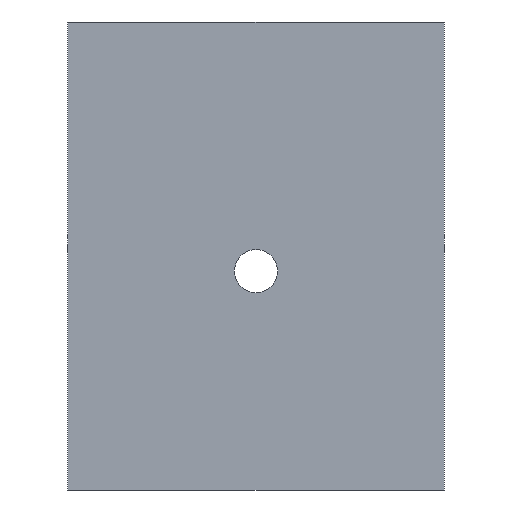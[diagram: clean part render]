
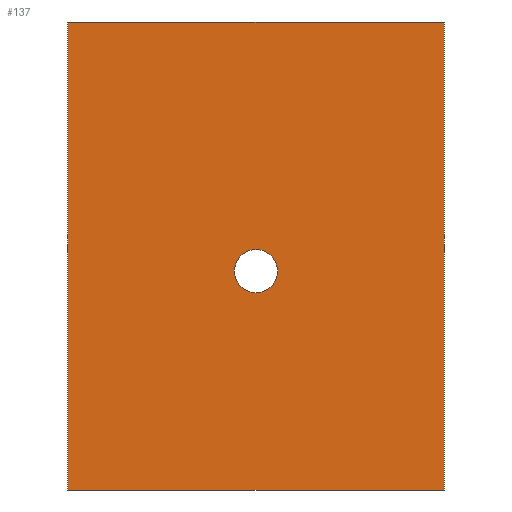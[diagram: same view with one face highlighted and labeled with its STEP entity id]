
A CAD part, front view. The second image highlights one B-rep face of the part: STEP entity #137.
In plain terms, the highlighted planar face has unit normal (0, -1, 0).
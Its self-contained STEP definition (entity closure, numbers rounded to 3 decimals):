
#21 = EDGE_CURVE('',#22,#24,#26,.T.);
#22 = VERTEX_POINT('',#23);
#23 = CARTESIAN_POINT('',(-62.,-3.,-77.));
#24 = VERTEX_POINT('',#25);
#25 = CARTESIAN_POINT('',(-62.,-3.,77.));
#26 = SURFACE_CURVE('',#27,(#31,#43),.PCURVE_S1.);
#27 = LINE('',#28,#29);
#28 = CARTESIAN_POINT('',(-62.,-3.,-77.));
#29 = VECTOR('',#30,1.);
#30 = DIRECTION('',(0.,0.,1.));
#31 = PCURVE('',#32,#37);
#32 = PLANE('',#33);
#33 = AXIS2_PLACEMENT_3D('',#34,#35,#36);
#34 = CARTESIAN_POINT('',(-62.,-3.,-77.));
#35 = DIRECTION('',(1.,0.,0.));
#36 = DIRECTION('',(0.,0.,1.));
#37 = DEFINITIONAL_REPRESENTATION('',(#38),#42);
#38 = LINE('',#39,#40);
#39 = CARTESIAN_POINT('',(0.,0.));
#40 = VECTOR('',#41,1.);
#41 = DIRECTION('',(1.,0.));
#42 = ( GEOMETRIC_REPRESENTATION_CONTEXT(2) 
PARAMETRIC_REPRESENTATION_CONTEXT() REPRESENTATION_CONTEXT('2D SPACE',''
  ) );
#43 = PCURVE('',#44,#49);
#44 = PLANE('',#45);
#45 = AXIS2_PLACEMENT_3D('',#46,#47,#48);
#46 = CARTESIAN_POINT('',(-62.,-3.,-77.));
#47 = DIRECTION('',(0.,1.,0.));
#48 = DIRECTION('',(0.,0.,1.));
#49 = DEFINITIONAL_REPRESENTATION('',(#50),#54);
#50 = LINE('',#51,#52);
#51 = CARTESIAN_POINT('',(0.,0.));
#52 = VECTOR('',#53,1.);
#53 = DIRECTION('',(1.,0.));
#54 = ( GEOMETRIC_REPRESENTATION_CONTEXT(2) 
PARAMETRIC_REPRESENTATION_CONTEXT() REPRESENTATION_CONTEXT('2D SPACE',''
  ) );
#72 = PLANE('',#73);
#73 = AXIS2_PLACEMENT_3D('',#74,#75,#76);
#74 = CARTESIAN_POINT('',(-62.,-3.,-77.));
#75 = DIRECTION('',(0.,0.,1.));
#76 = DIRECTION('',(1.,0.,0.));
#126 = PLANE('',#127);
#127 = AXIS2_PLACEMENT_3D('',#128,#129,#130);
#128 = CARTESIAN_POINT('',(-62.,-3.,77.));
#129 = DIRECTION('',(0.,0.,1.));
#130 = DIRECTION('',(1.,0.,0.));
#137 = ADVANCED_FACE('',(#138,#213),#44,.F.);
#138 = FACE_BOUND('',#139,.F.);
#139 = EDGE_LOOP('',(#140,#163,#164,#187));
#140 = ORIENTED_EDGE('',*,*,#141,.F.);
#141 = EDGE_CURVE('',#22,#142,#144,.T.);
#142 = VERTEX_POINT('',#143);
#143 = CARTESIAN_POINT('',(62.,-3.,-77.));
#144 = SURFACE_CURVE('',#145,(#149,#156),.PCURVE_S1.);
#145 = LINE('',#146,#147);
#146 = CARTESIAN_POINT('',(-62.,-3.,-77.));
#147 = VECTOR('',#148,1.);
#148 = DIRECTION('',(1.,0.,0.));
#149 = PCURVE('',#44,#150);
#150 = DEFINITIONAL_REPRESENTATION('',(#151),#155);
#151 = LINE('',#152,#153);
#152 = CARTESIAN_POINT('',(0.,0.));
#153 = VECTOR('',#154,1.);
#154 = DIRECTION('',(0.,1.));
#155 = ( GEOMETRIC_REPRESENTATION_CONTEXT(2) 
PARAMETRIC_REPRESENTATION_CONTEXT() REPRESENTATION_CONTEXT('2D SPACE',''
  ) );
#156 = PCURVE('',#72,#157);
#157 = DEFINITIONAL_REPRESENTATION('',(#158),#162);
#158 = LINE('',#159,#160);
#159 = CARTESIAN_POINT('',(0.,0.));
#160 = VECTOR('',#161,1.);
#161 = DIRECTION('',(1.,0.));
#162 = ( GEOMETRIC_REPRESENTATION_CONTEXT(2) 
PARAMETRIC_REPRESENTATION_CONTEXT() REPRESENTATION_CONTEXT('2D SPACE',''
  ) );
#163 = ORIENTED_EDGE('',*,*,#21,.T.);
#164 = ORIENTED_EDGE('',*,*,#165,.T.);
#165 = EDGE_CURVE('',#24,#166,#168,.T.);
#166 = VERTEX_POINT('',#167);
#167 = CARTESIAN_POINT('',(62.,-3.,77.));
#168 = SURFACE_CURVE('',#169,(#173,#180),.PCURVE_S1.);
#169 = LINE('',#170,#171);
#170 = CARTESIAN_POINT('',(-62.,-3.,77.));
#171 = VECTOR('',#172,1.);
#172 = DIRECTION('',(1.,0.,0.));
#173 = PCURVE('',#44,#174);
#174 = DEFINITIONAL_REPRESENTATION('',(#175),#179);
#175 = LINE('',#176,#177);
#176 = CARTESIAN_POINT('',(154.,0.));
#177 = VECTOR('',#178,1.);
#178 = DIRECTION('',(0.,1.));
#179 = ( GEOMETRIC_REPRESENTATION_CONTEXT(2) 
PARAMETRIC_REPRESENTATION_CONTEXT() REPRESENTATION_CONTEXT('2D SPACE',''
  ) );
#180 = PCURVE('',#126,#181);
#181 = DEFINITIONAL_REPRESENTATION('',(#182),#186);
#182 = LINE('',#183,#184);
#183 = CARTESIAN_POINT('',(0.,0.));
#184 = VECTOR('',#185,1.);
#185 = DIRECTION('',(1.,0.));
#186 = ( GEOMETRIC_REPRESENTATION_CONTEXT(2) 
PARAMETRIC_REPRESENTATION_CONTEXT() REPRESENTATION_CONTEXT('2D SPACE',''
  ) );
#187 = ORIENTED_EDGE('',*,*,#188,.F.);
#188 = EDGE_CURVE('',#142,#166,#189,.T.);
#189 = SURFACE_CURVE('',#190,(#194,#201),.PCURVE_S1.);
#190 = LINE('',#191,#192);
#191 = CARTESIAN_POINT('',(62.,-3.,-77.));
#192 = VECTOR('',#193,1.);
#193 = DIRECTION('',(0.,0.,1.));
#194 = PCURVE('',#44,#195);
#195 = DEFINITIONAL_REPRESENTATION('',(#196),#200);
#196 = LINE('',#197,#198);
#197 = CARTESIAN_POINT('',(0.,124.));
#198 = VECTOR('',#199,1.);
#199 = DIRECTION('',(1.,0.));
#200 = ( GEOMETRIC_REPRESENTATION_CONTEXT(2) 
PARAMETRIC_REPRESENTATION_CONTEXT() REPRESENTATION_CONTEXT('2D SPACE',''
  ) );
#201 = PCURVE('',#202,#207);
#202 = PLANE('',#203);
#203 = AXIS2_PLACEMENT_3D('',#204,#205,#206);
#204 = CARTESIAN_POINT('',(62.,-3.,-77.));
#205 = DIRECTION('',(1.,0.,0.));
#206 = DIRECTION('',(0.,0.,1.));
#207 = DEFINITIONAL_REPRESENTATION('',(#208),#212);
#208 = LINE('',#209,#210);
#209 = CARTESIAN_POINT('',(0.,0.));
#210 = VECTOR('',#211,1.);
#211 = DIRECTION('',(1.,0.));
#212 = ( GEOMETRIC_REPRESENTATION_CONTEXT(2) 
PARAMETRIC_REPRESENTATION_CONTEXT() REPRESENTATION_CONTEXT('2D SPACE',''
  ) );
#213 = FACE_BOUND('',#214,.F.);
#214 = EDGE_LOOP('',(#215));
#215 = ORIENTED_EDGE('',*,*,#216,.F.);
#216 = EDGE_CURVE('',#217,#217,#219,.T.);
#217 = VERTEX_POINT('',#218);
#218 = CARTESIAN_POINT('',(0.,-3.,2.1));
#219 = SURFACE_CURVE('',#220,(#225,#232),.PCURVE_S1.);
#220 = CIRCLE('',#221,7.1);
#221 = AXIS2_PLACEMENT_3D('',#222,#223,#224);
#222 = CARTESIAN_POINT('',(0.,-3.,-5.));
#223 = DIRECTION('',(0.,1.,0.));
#224 = DIRECTION('',(0.,-0.,1.));
#225 = PCURVE('',#44,#226);
#226 = DEFINITIONAL_REPRESENTATION('',(#227),#231);
#227 = CIRCLE('',#228,7.1);
#228 = AXIS2_PLACEMENT_2D('',#229,#230);
#229 = CARTESIAN_POINT('',(72.,62.));
#230 = DIRECTION('',(1.,0.));
#231 = ( GEOMETRIC_REPRESENTATION_CONTEXT(2) 
PARAMETRIC_REPRESENTATION_CONTEXT() REPRESENTATION_CONTEXT('2D SPACE',''
  ) );
#232 = PCURVE('',#233,#238);
#233 = CYLINDRICAL_SURFACE('',#234,7.1);
#234 = AXIS2_PLACEMENT_3D('',#235,#236,#237);
#235 = CARTESIAN_POINT('',(0.,-6.,-5.));
#236 = DIRECTION('',(0.,1.,0.));
#237 = DIRECTION('',(0.,-0.,1.));
#238 = DEFINITIONAL_REPRESENTATION('',(#239),#243);
#239 = LINE('',#240,#241);
#240 = CARTESIAN_POINT('',(0.,3.));
#241 = VECTOR('',#242,1.);
#242 = DIRECTION('',(1.,0.));
#243 = ( GEOMETRIC_REPRESENTATION_CONTEXT(2) 
PARAMETRIC_REPRESENTATION_CONTEXT() REPRESENTATION_CONTEXT('2D SPACE',''
  ) );
